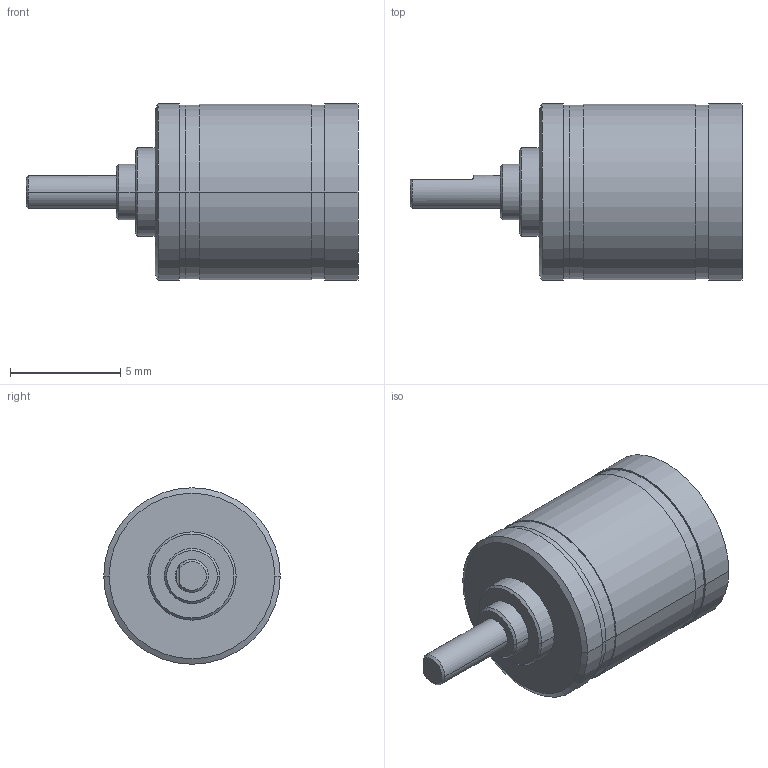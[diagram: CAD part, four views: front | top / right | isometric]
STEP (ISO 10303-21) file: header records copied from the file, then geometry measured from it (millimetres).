
FILE_DESCRIPTION((''),'2;1');
FILE_NAME('GP8A_1-STUFIG_381894','2013-05-21T',('MMAGPETK'),(''),'PRO/ENGINEER BY PARAMETRIC TECHNOLOGY CORPORATION, 2012010','PRO/ENGINEER BY PARAMETRIC TECHNOLOGY CORPORATION, 2012010','');
FILE_SCHEMA(('CONFIG_CONTROL_DESIGN'));
Length unit declared in the file: millimetre
Products named in the file (1): GP8A_1-STUFIG_381894
Bounding box: 15.05 x 8 x 8 mm (x, y, z)
Volume: 473.4 mm3; surface area: 400.1 mm2
Topology: 1 solids, 2 shells, 161 faces, 448 edges, 298 vertices
Faces by surface type: cylinder 111, extrusion 30, plane 13, cone 7
Entity records: 5433 total; most frequent: CARTESIAN_POINT 1149, DIRECTION 909, ORIENTED_EDGE 896, EDGE_CURVE 448, AXIS2_PLACEMENT_3D 364, VERTEX_POINT 298, CIRCLE 233, VECTOR 181
